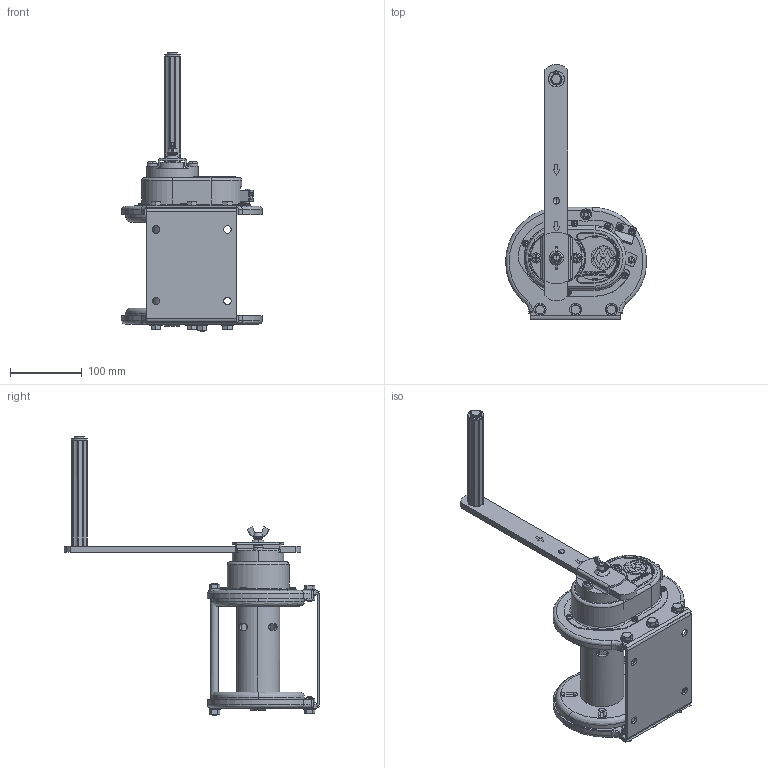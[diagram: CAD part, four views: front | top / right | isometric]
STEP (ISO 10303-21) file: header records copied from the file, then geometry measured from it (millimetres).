
FILE_DESCRIPTION( (''), '2;1');
FILE_NAME ('GM-1-GS.stp','2023-12-22T14:34:00',(''),(''),'spGate 19.8.2 (****-****-****-****)','','');
FILE_SCHEMA (('AUTOMOTIVE_DESIGN'));
Length unit declared in the file: millimetre
Products named in the file (3): Assembly; GM-1-GS-prt0; GM-1-GS-prt1
Assembly tree (2 placements, depth 2):
  Assembly
    GM-1-GS-prt0
    GM-1-GS-prt1
Bounding box: 196.82 x 356.93 x 389.8 mm (x, y, z)
Volume: 1003998.7 mm3; surface area: 435972.9 mm2
Topology: 2 solids, 2 shells, 2247 faces, 5864 edges, 3694 vertices
Faces by surface type: plane 1057, cylinder 777, bspline 349, sphere 64
Entity records: 120961 total; most frequent: CARTESIAN_POINT 21445, ORIENTED_EDGE 11596, DIRECTION 10765, COLOUR_RGB 8047, PRESENTATION_STYLE_ASSIGNMENT 8047, STYLED_ITEM 8047, EDGE_CURVE 5798, DRAUGHTING_PRE_DEFINED_CURVE_FONT 5798
